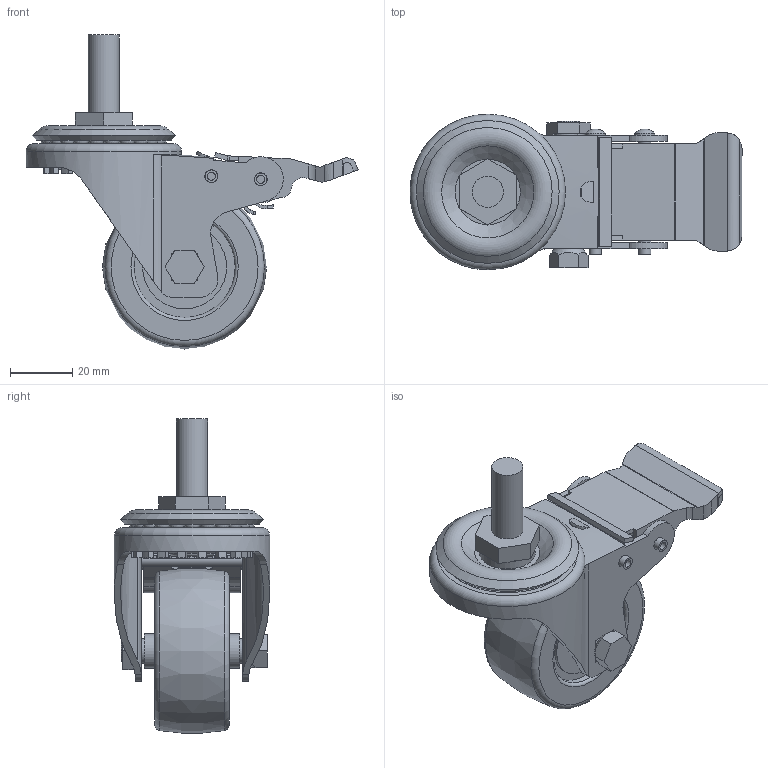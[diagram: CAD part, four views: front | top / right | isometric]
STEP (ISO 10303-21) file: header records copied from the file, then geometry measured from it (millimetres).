
FILE_DESCRIPTION(/* description */ (''),/* implementation_level */ '2;1');
FILE_NAME(/* name */ '15A05_2_F.stp',/* time_stamp */ '2022-10-06T14:04:59+08:00',/* author */ (''),/* organization */ (''),/* preprocessor_version */ 'ST-DEVELOPER v14',/* originating_system */ 'SIEMENS PLM Software NX 8.0',/* authorisation */ '');
FILE_SCHEMA (('AUTOMOTIVE_DESIGN { 1 0 10303 214 3 1 1 1 }'));
Length unit declared in the file: millimetre
Products named in the file (1): 15A05_2_F
Bounding box: 106.77 x 50 x 101 mm (x, y, z)
Volume: 81205.5 mm3; surface area: 42769.6 mm2
Topology: 1 solids, 2 shells, 726 faces, 2125 edges, 1379 vertices
Faces by surface type: plane 373, cylinder 199, torus 62, sphere 45, bspline 20, cone 19, extrusion 8
Full cylindrical faces by diameter (mm): 2.6 x2, 4 x3, 4.2 x5, 6.5 x2, 8 x3, 8.2 x3, 10 x2, 10.2 x1, 10.5 x1, 10.6 x1, 11 x2, 17 x1, 18 x1, 23 x2, 27 x2, 32.5 x2, 46 x1, 50 x1
Entity records: 28436 total; most frequent: CARTESIAN_POINT 10730, ORIENTED_EDGE 3832, DIRECTION 3391, EDGE_CURVE 1916, AXIS2_PLACEMENT_3D 1291, VERTEX_POINT 1286, EDGE_LOOP 888, VECTOR 809
